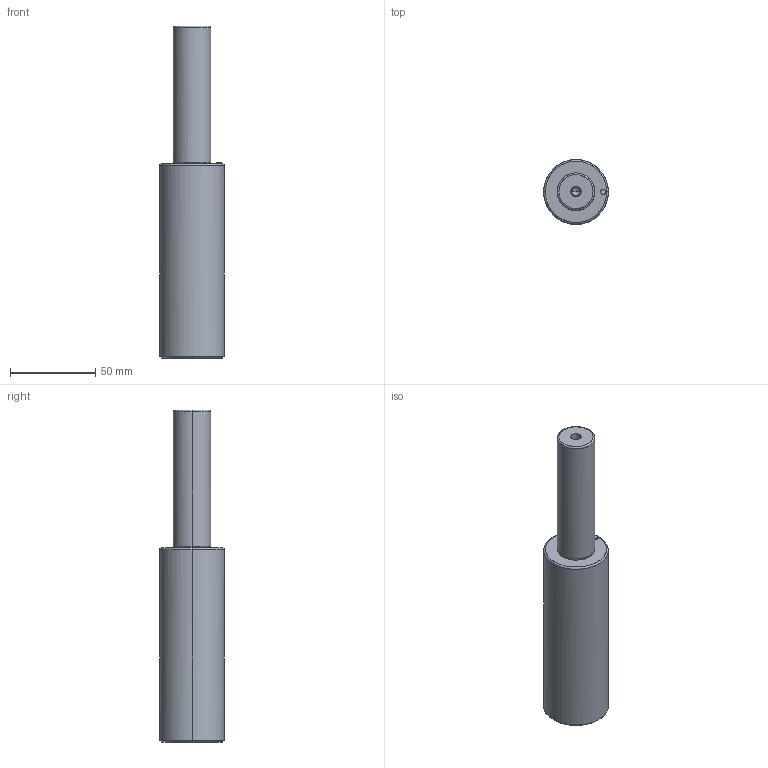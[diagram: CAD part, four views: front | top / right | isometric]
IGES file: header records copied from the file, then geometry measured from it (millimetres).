
Global section: file name: E:\UnigraphicsGraphicData\MISUMI_PRESS-PARTS\IGES\3d_gsc38-80_03821_r00.igs; native system: NX V5.0; preprocessor: UGS NX IGES V5.0; author: MISUMI; date: 20110105.160748; units: millimetre
Bounding box: 38 x 37.94 x 195 mm (x, y, z)
Surface area: 21925.9 mm2 (no closed solid volume)
Topology: 0 solids, 0 shells, 32 faces, 216 edges, 212 vertices
Faces by surface type: bspline 32
